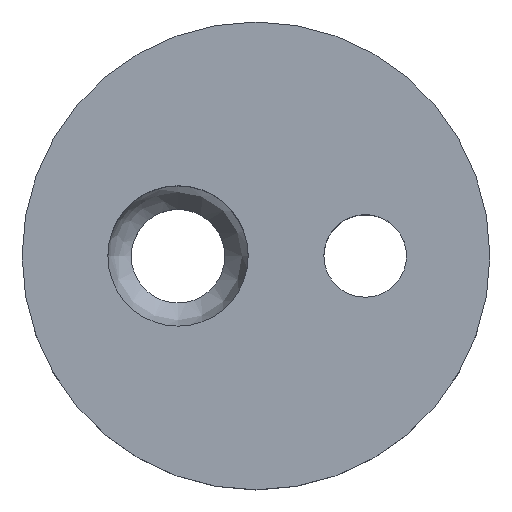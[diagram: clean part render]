
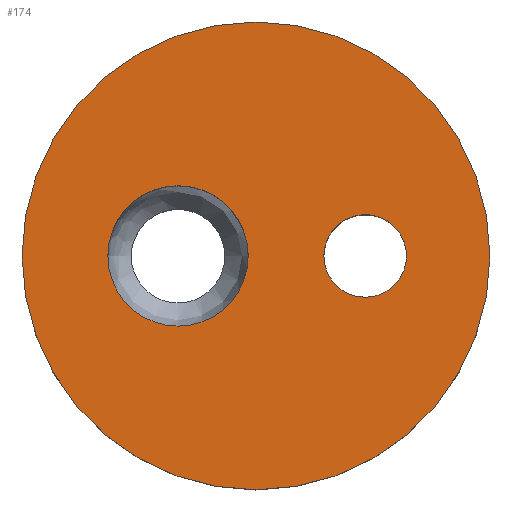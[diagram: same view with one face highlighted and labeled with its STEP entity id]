
A CAD part, top view. The second image highlights one B-rep face of the part: STEP entity #174.
In plain terms, the highlighted planar face has unit normal (0, 0, 1).
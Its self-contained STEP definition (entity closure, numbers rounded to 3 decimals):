
#18=FACE_BOUND('',#62,.T.);
#19=FACE_BOUND('',#63,.T.);
#22=PLANE('',#213);
#49=FACE_OUTER_BOUND('',#61,.T.);
#61=EDGE_LOOP('',(#161));
#62=EDGE_LOOP('',(#162));
#63=EDGE_LOOP('',(#163));
#68=CIRCLE('',#194,4.5);
#71=CIRCLE('',#199,2.65);
#79=CIRCLE('',#212,15.);
#83=VERTEX_POINT('',#307);
#88=VERTEX_POINT('',#325);
#94=VERTEX_POINT('',#352);
#100=EDGE_CURVE('',#83,#83,#68,.T.);
#106=EDGE_CURVE('',#88,#88,#71,.T.);
#116=EDGE_CURVE('',#94,#94,#79,.T.);
#161=ORIENTED_EDGE('',*,*,#116,.T.);
#162=ORIENTED_EDGE('',*,*,#100,.T.);
#163=ORIENTED_EDGE('',*,*,#106,.T.);
#174=ADVANCED_FACE('',(#49,#18,#19),#22,.T.);
#194=AXIS2_PLACEMENT_3D('',#309,#227,#228);
#199=AXIS2_PLACEMENT_3D('',#327,#239,#240);
#212=AXIS2_PLACEMENT_3D('',#353,#266,#267);
#213=AXIS2_PLACEMENT_3D('',#355,#269,#270);
#227=DIRECTION('center_axis',(0.,0.,-1.));
#228=DIRECTION('ref_axis',(1.,0.,0.));
#239=DIRECTION('center_axis',(0.,0.,-1.));
#240=DIRECTION('ref_axis',(1.,0.,0.));
#266=DIRECTION('center_axis',(0.,0.,1.));
#267=DIRECTION('ref_axis',(1.,0.,0.));
#269=DIRECTION('center_axis',(0.,0.,1.));
#270=DIRECTION('ref_axis',(1.,0.,0.));
#307=CARTESIAN_POINT('',(-9.5,0.,105.));
#309=CARTESIAN_POINT('Origin',(-5.,0.,105.));
#325=CARTESIAN_POINT('',(4.35,0.,105.));
#327=CARTESIAN_POINT('Origin',(7.,0.,105.));
#352=CARTESIAN_POINT('',(-15.,0.,105.));
#353=CARTESIAN_POINT('Origin',(0.,0.,105.));
#355=CARTESIAN_POINT('Origin',(0.,0.,105.));
